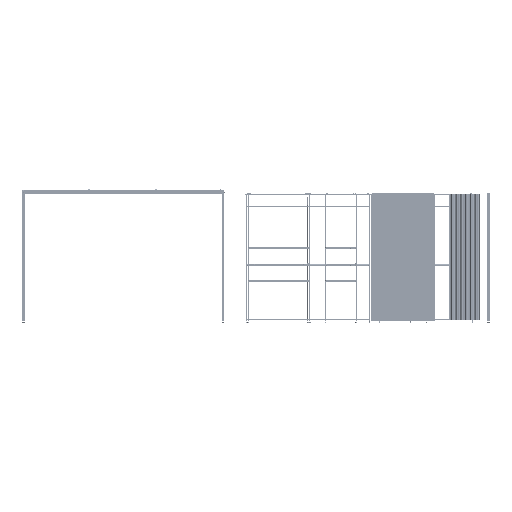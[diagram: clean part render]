
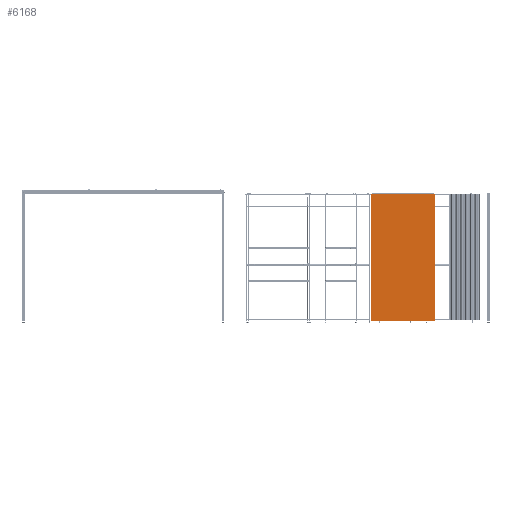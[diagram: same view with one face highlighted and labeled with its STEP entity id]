
A CAD part, front view. The second image highlights one B-rep face of the part: STEP entity #6168.
In plain terms, the highlighted planar face has unit normal (0, -1, 0).
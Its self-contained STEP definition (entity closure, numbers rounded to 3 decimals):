
#6168=ADVANCED_FACE('',(#21373),#258198,.T.);
#21373=FACE_OUTER_BOUND('',#36958,.T.);
#36958=EDGE_LOOP('',(#65889,#65890,#65891,#65892));
#65889=ORIENTED_EDGE('',*,*,#142157,.F.);
#65890=ORIENTED_EDGE('',*,*,#142158,.F.);
#65891=ORIENTED_EDGE('',*,*,#142121,.F.);
#65892=ORIENTED_EDGE('',*,*,#142156,.F.);
#142121=EDGE_CURVE('',#233355,#233359,#182166,.T.);
#142156=EDGE_CURVE('',#233358,#233355,#182168,.T.);
#142157=EDGE_CURVE('',#233367,#233358,#182169,.T.);
#142158=EDGE_CURVE('',#233359,#233367,#182170,.T.);
#182166=B_SPLINE_CURVE_WITH_KNOTS('',1,(#366508,#366509),.UNSPECIFIED.,
 .F.,.F.,(2,2),(0.,1334.),.UNSPECIFIED.);
#182168=B_SPLINE_CURVE_WITH_KNOTS('',1,(#366613,#366614),.UNSPECIFIED.,
 .F.,.F.,(2,2),(-2680.172,0.),.UNSPECIFIED.);
#182169=B_SPLINE_CURVE_WITH_KNOTS('',1,(#366615,#366616),.UNSPECIFIED.,
 .F.,.F.,(2,2),(-1334.,0.),.UNSPECIFIED.);
#182170=B_SPLINE_CURVE_WITH_KNOTS('',1,(#366617,#366618),.UNSPECIFIED.,
 .F.,.F.,(2,2),(-2680.172,0.),.UNSPECIFIED.);
#233355=VERTEX_POINT('',#366225);
#233358=VERTEX_POINT('',#366228);
#233359=VERTEX_POINT('',#366229);
#233367=VERTEX_POINT('',#366237);
#258198=PLANE('',#275400);
#275400=AXIS2_PLACEMENT_3D('',#366086,#301734,$);
#301734=DIRECTION('',(0.,-1.,0.));
#366086=CARTESIAN_POINT('',(-2971.442,-8102.212,2975.189));
#366225=CARTESIAN_POINT('',(-1504.042,-8102.212,27.));
#366228=CARTESIAN_POINT('',(-1504.042,-8102.212,2707.172));
#366229=CARTESIAN_POINT('',(-2838.042,-8102.212,27.));
#366237=CARTESIAN_POINT('',(-2838.042,-8102.212,2707.172));
#366508=CARTESIAN_POINT('',(-1504.042,-8102.212,27.));
#366509=CARTESIAN_POINT('',(-2838.042,-8102.212,27.));
#366613=CARTESIAN_POINT('',(-1504.042,-8102.212,2707.172));
#366614=CARTESIAN_POINT('',(-1504.042,-8102.212,27.));
#366615=CARTESIAN_POINT('',(-2838.042,-8102.212,2707.172));
#366616=CARTESIAN_POINT('',(-1504.042,-8102.212,2707.172));
#366617=CARTESIAN_POINT('',(-2838.042,-8102.212,27.));
#366618=CARTESIAN_POINT('',(-2838.042,-8102.212,2707.172));
